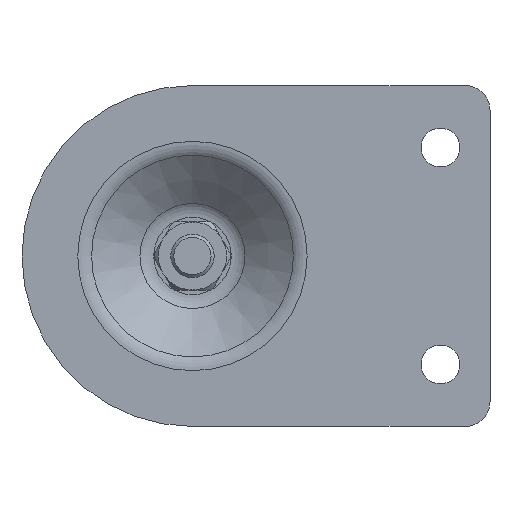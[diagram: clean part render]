
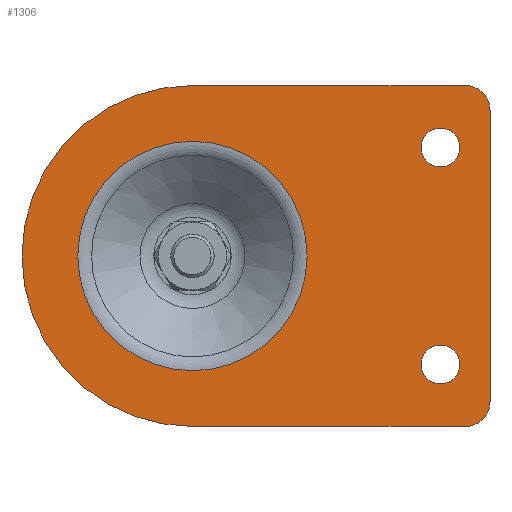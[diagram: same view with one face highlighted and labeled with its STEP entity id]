
A CAD part, front view. The second image highlights one B-rep face of the part: STEP entity #1306.
In plain terms, the highlighted planar face has unit normal (0, -1, 0).
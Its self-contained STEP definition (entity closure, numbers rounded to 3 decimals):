
#71=FACE_BOUND('',#254,.T.);
#72=FACE_BOUND('',#255,.T.);
#73=FACE_BOUND('',#256,.T.);
#86=PLANE('',#1441);
#163=FACE_OUTER_BOUND('',#253,.T.);
#253=EDGE_LOOP('',(#915,#916,#917,#918,#919,#920));
#254=EDGE_LOOP('',(#921));
#255=EDGE_LOOP('',(#922));
#256=EDGE_LOOP('',(#923));
#355=LINE('',#2076,#414);
#356=LINE('',#2080,#415);
#357=LINE('',#2083,#416);
#414=VECTOR('',#1664,1000.);
#415=VECTOR('',#1667,1000.);
#416=VECTOR('',#1670,1000.);
#467=CIRCLE('',#1413,6.25);
#469=CIRCLE('',#1416,6.25);
#483=CIRCLE('',#1437,37.);
#484=CIRCLE('',#1439,55.);
#486=CIRCLE('',#1442,8.);
#487=CIRCLE('',#1443,8.);
#555=VERTEX_POINT('',#2022);
#557=VERTEX_POINT('',#2028);
#567=VERTEX_POINT('',#2062);
#568=VERTEX_POINT('',#2066);
#569=VERTEX_POINT('',#2067);
#572=VERTEX_POINT('',#2075);
#573=VERTEX_POINT('',#2077);
#574=VERTEX_POINT('',#2079);
#575=VERTEX_POINT('',#2081);
#678=EDGE_CURVE('',#555,#555,#467,.T.);
#681=EDGE_CURVE('',#557,#557,#469,.T.);
#698=EDGE_CURVE('',#567,#567,#483,.T.);
#699=EDGE_CURVE('',#568,#569,#484,.T.);
#703=EDGE_CURVE('',#569,#572,#355,.T.);
#704=EDGE_CURVE('',#572,#573,#486,.T.);
#705=EDGE_CURVE('',#573,#574,#356,.T.);
#706=EDGE_CURVE('',#574,#575,#487,.T.);
#707=EDGE_CURVE('',#575,#568,#357,.T.);
#915=ORIENTED_EDGE('',*,*,#699,.T.);
#916=ORIENTED_EDGE('',*,*,#703,.T.);
#917=ORIENTED_EDGE('',*,*,#704,.T.);
#918=ORIENTED_EDGE('',*,*,#705,.T.);
#919=ORIENTED_EDGE('',*,*,#706,.T.);
#920=ORIENTED_EDGE('',*,*,#707,.T.);
#921=ORIENTED_EDGE('',*,*,#698,.F.);
#922=ORIENTED_EDGE('',*,*,#678,.F.);
#923=ORIENTED_EDGE('',*,*,#681,.F.);
#1306=ADVANCED_FACE('',(#163,#71,#72,#73),#86,.T.);
#1413=AXIS2_PLACEMENT_3D('',#2024,#1600,#1601);
#1416=AXIS2_PLACEMENT_3D('',#2030,#1607,#1608);
#1437=AXIS2_PLACEMENT_3D('',#2064,#1652,#1653);
#1439=AXIS2_PLACEMENT_3D('',#2068,#1656,#1657);
#1441=AXIS2_PLACEMENT_3D('',#2074,#1662,#1663);
#1442=AXIS2_PLACEMENT_3D('',#2078,#1665,#1666);
#1443=AXIS2_PLACEMENT_3D('',#2082,#1668,#1669);
#1600=DIRECTION('center_axis',(0.,-1.,0.));
#1601=DIRECTION('ref_axis',(0.,0.,1.));
#1607=DIRECTION('center_axis',(0.,-1.,0.));
#1608=DIRECTION('ref_axis',(0.,0.,-1.));
#1652=DIRECTION('center_axis',(0.,-1.,0.));
#1653=DIRECTION('ref_axis',(0.,0.,-1.));
#1656=DIRECTION('center_axis',(0.,-1.,0.));
#1657=DIRECTION('ref_axis',(0.,0.,-1.));
#1662=DIRECTION('center_axis',(0.,-1.,0.));
#1663=DIRECTION('ref_axis',(0.,0.,-1.));
#1664=DIRECTION('',(1.,0.,0.));
#1665=DIRECTION('center_axis',(0.,-1.,0.));
#1666=DIRECTION('ref_axis',(0.,0.,-1.));
#1667=DIRECTION('',(0.,0.,1.));
#1668=DIRECTION('center_axis',(0.,-1.,0.));
#1669=DIRECTION('ref_axis',(0.,0.,1.));
#1670=DIRECTION('',(-1.,0.,0.));
#2022=CARTESIAN_POINT('',(80.,0.,-28.75));
#2024=CARTESIAN_POINT('Origin',(80.,0.,-35.));
#2028=CARTESIAN_POINT('',(80.,0.,41.25));
#2030=CARTESIAN_POINT('Origin',(80.,0.,35.));
#2062=CARTESIAN_POINT('',(0.,0.,37.));
#2064=CARTESIAN_POINT('Origin',(0.,0.,0.));
#2066=CARTESIAN_POINT('',(0.,0.,55.));
#2067=CARTESIAN_POINT('',(0.,0.,-55.));
#2068=CARTESIAN_POINT('Origin',(0.,0.,0.));
#2074=CARTESIAN_POINT('Origin',(55.,0.,0.));
#2075=CARTESIAN_POINT('',(88.,0.,-55.));
#2076=CARTESIAN_POINT('',(0.,0.,-55.));
#2077=CARTESIAN_POINT('',(96.,0.,-47.));
#2078=CARTESIAN_POINT('Origin',(88.,0.,-47.));
#2079=CARTESIAN_POINT('',(96.,0.,47.));
#2080=CARTESIAN_POINT('',(96.,0.,47.));
#2081=CARTESIAN_POINT('',(88.,0.,55.));
#2082=CARTESIAN_POINT('Origin',(88.,0.,47.));
#2083=CARTESIAN_POINT('',(0.,0.,55.));
